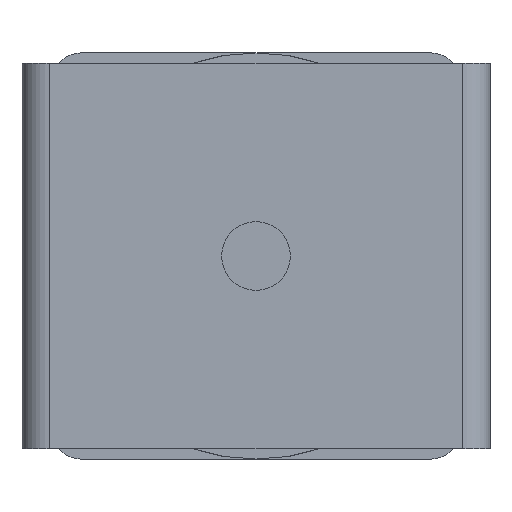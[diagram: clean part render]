
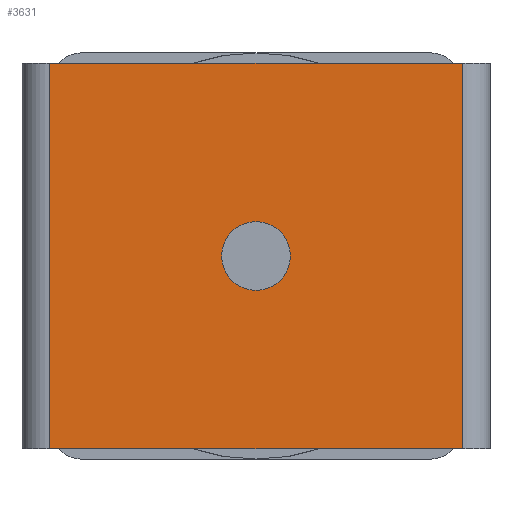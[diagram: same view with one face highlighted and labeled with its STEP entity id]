
A CAD part, front view. The second image highlights one B-rep face of the part: STEP entity #3631.
In plain terms, the highlighted planar face has unit normal (0, -1, 0).
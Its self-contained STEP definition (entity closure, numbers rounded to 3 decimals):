
#30 = VECTOR ( 'NONE', #2075, 1000. ) ;
#38 = CIRCLE ( 'NONE', #2500, 2.5 ) ;
#76 = CARTESIAN_POINT ( 'NONE',  ( 15., -53.8, -14. ) ) ;
#116 = ORIENTED_EDGE ( 'NONE', *, *, #1446, .F. ) ;
#172 = CARTESIAN_POINT ( 'NONE',  ( 0., -53.8, -11.5 ) ) ;
#297 = FACE_OUTER_BOUND ( 'NONE', #4307, .T. ) ;
#362 = VECTOR ( 'NONE', #2354, 1000. ) ;
#392 = ORIENTED_EDGE ( 'NONE', *, *, #2059, .F. ) ;
#420 = VERTEX_POINT ( 'NONE', #1960 ) ;
#428 = VERTEX_POINT ( 'NONE', #3019 ) ;
#583 = EDGE_CURVE ( 'NONE', #428, #699, #3098, .T. ) ;
#699 = VERTEX_POINT ( 'NONE', #172 ) ;
#1046 = VERTEX_POINT ( 'NONE', #3788 ) ;
#1221 = DIRECTION ( 'NONE',  ( 0., 1., 0. ) ) ;
#1283 = EDGE_CURVE ( 'NONE', #1046, #3832, #1513, .T. ) ;
#1295 = LINE ( 'NONE', #3762, #362 ) ;
#1446 = EDGE_CURVE ( 'NONE', #699, #428, #38, .T. ) ;
#1480 = DIRECTION ( 'NONE',  ( 0., -1., 0. ) ) ;
#1513 = LINE ( 'NONE', #2512, #1631 ) ;
#1631 = VECTOR ( 'NONE', #3226, 1000. ) ;
#1727 = CARTESIAN_POINT ( 'NONE',  ( -15., -53.8, -14. ) ) ;
#1808 = CARTESIAN_POINT ( 'NONE',  ( 0., -53.8, -14. ) ) ;
#1821 = EDGE_CURVE ( 'NONE', #420, #2851, #1295, .T. ) ;
#1857 = ORIENTED_EDGE ( 'NONE', *, *, #1821, .T. ) ;
#1875 = ORIENTED_EDGE ( 'NONE', *, *, #2372, .T. ) ;
#1959 = CARTESIAN_POINT ( 'NONE',  ( 15., -53.8, -28. ) ) ;
#1960 = CARTESIAN_POINT ( 'NONE',  ( -15., -53.8, -28. ) ) ;
#2059 = EDGE_CURVE ( 'NONE', #1046, #2851, #3915, .T. ) ;
#2075 = DIRECTION ( 'NONE',  ( 0., 0., -1. ) ) ;
#2150 = DIRECTION ( 'NONE',  ( 0., 0., 1. ) ) ;
#2246 = PLANE ( 'NONE',  #3457 ) ;
#2354 = DIRECTION ( 'NONE',  ( 1., 0., 0. ) ) ;
#2372 = EDGE_CURVE ( 'NONE', #3832, #420, #2805, .T. ) ;
#2497 = DIRECTION ( 'NONE',  ( 0., 0., -1. ) ) ;
#2500 = AXIS2_PLACEMENT_3D ( 'NONE', #1808, #4266, #2150 ) ;
#2512 = CARTESIAN_POINT ( 'NONE',  ( 0., -53.8, 0. ) ) ;
#2805 = LINE ( 'NONE', #1727, #30 ) ;
#2807 = ORIENTED_EDGE ( 'NONE', *, *, #1283, .T. ) ;
#2824 = EDGE_LOOP ( 'NONE', ( #116, #3717 ) ) ;
#2851 = VERTEX_POINT ( 'NONE', #1959 ) ;
#2857 = AXIS2_PLACEMENT_3D ( 'NONE', #3568, #1480, #3930 ) ;
#2960 = CARTESIAN_POINT ( 'NONE',  ( -15., -53.8, -28. ) ) ;
#2970 = FACE_BOUND ( 'NONE', #2824, .T. ) ;
#3019 = CARTESIAN_POINT ( 'NONE',  ( 0., -53.8, -16.5 ) ) ;
#3091 = CARTESIAN_POINT ( 'NONE',  ( -15., -53.8, 0. ) ) ;
#3098 = CIRCLE ( 'NONE', #2857, 2.5 ) ;
#3226 = DIRECTION ( 'NONE',  ( -1., 0., 0. ) ) ;
#3457 = AXIS2_PLACEMENT_3D ( 'NONE', #2960, #1221, #3667 ) ;
#3568 = CARTESIAN_POINT ( 'NONE',  ( 0., -53.8, -14. ) ) ;
#3631 = ADVANCED_FACE ( 'NONE', ( #2970, #297 ), #2246, .F. ) ;
#3667 = DIRECTION ( 'NONE',  ( 0., 0., 1. ) ) ;
#3717 = ORIENTED_EDGE ( 'NONE', *, *, #583, .F. ) ;
#3762 = CARTESIAN_POINT ( 'NONE',  ( 0., -53.8, -28. ) ) ;
#3788 = CARTESIAN_POINT ( 'NONE',  ( 15., -53.8, 0. ) ) ;
#3832 = VERTEX_POINT ( 'NONE', #3091 ) ;
#3915 = LINE ( 'NONE', #76, #4141 ) ;
#3930 = DIRECTION ( 'NONE',  ( 0., 0., 1. ) ) ;
#4141 = VECTOR ( 'NONE', #2497, 1000. ) ;
#4266 = DIRECTION ( 'NONE',  ( 0., -1., 0. ) ) ;
#4307 = EDGE_LOOP ( 'NONE', ( #1875, #1857, #392, #2807 ) ) ;
